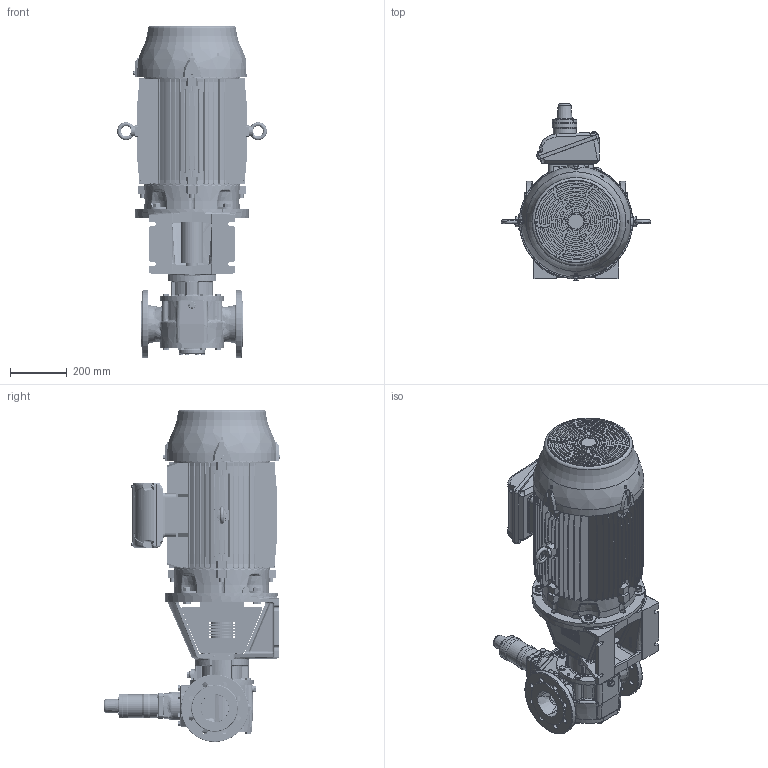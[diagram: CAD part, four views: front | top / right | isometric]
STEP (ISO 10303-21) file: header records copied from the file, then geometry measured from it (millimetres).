
FILE_DESCRIPTION(/* description */ (''),/* implementation_level */ '2;1');
FILE_NAME(/* name */ 'C:\V\JPP\Designs\GEAR PUMPS\PRODUCT ENGINEERING\EUROPE\TG BLOC\TG BLOC_86-100_R5_O_RV1-_200L-STEP.stp',/* time_stamp */ '2021-03-19T15:24:54+01:00',/* author */ ('A77THR'),/* organization */ (''),/* preprocessor_version */ 'ST-DEVELOPER v18.1',/* originating_system */ 'Autodesk Inventor 2020',/* authorisation */ '');
FILE_SCHEMA (('AUTOMOTIVE_DESIGN { 1 0 10303 214 3 1 1 }'));
Length unit declared in the file: millimetre
Products named in the file (1): TG BLOC_86-100_R5_O_RV1-_200L
Bounding box: 527.98 x 623.54 x 1170.26 mm (x, y, z)
Volume: 85408274.7 mm3; surface area: 3592863.8 mm2
Topology: 1 solids, 1 shells, 4881 faces, 12967 edges, 8248 vertices
Faces by surface type: plane 1903, cylinder 1171, bspline 1012, cone 597, torus 150, sphere 48
Full cylindrical faces by diameter (mm): 4 x1, 4.5 x4, 4.917 x4, 5.459 x4, 6 x4, 6.647 x1, 7 x4, 7.323 x10, 7.444 x3, 8 x13, 8.7 x4, 9 x12, 9.188 x8, 10 x16, 10.106 x7, 10.2 x2, 11 x8, 11.053 x4, 11.4 x10, 11.445 x2, 11.6 x3, 12 x4, 13 x1, 13.157 x2, 13.2 x2, 14 x8, 15.011 x2, 15.4 x8, 17.2 x20, 18 x23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
Entity records: 216524 total; most frequent: CARTESIAN_POINT 98272, ORIENTED_EDGE 25716, DIRECTION 21534, EDGE_CURVE 12858, AXIS2_PLACEMENT_3D 8409, VERTEX_POINT 8248, EDGE_LOOP 5308, FACE_OUTER_BOUND 4881
